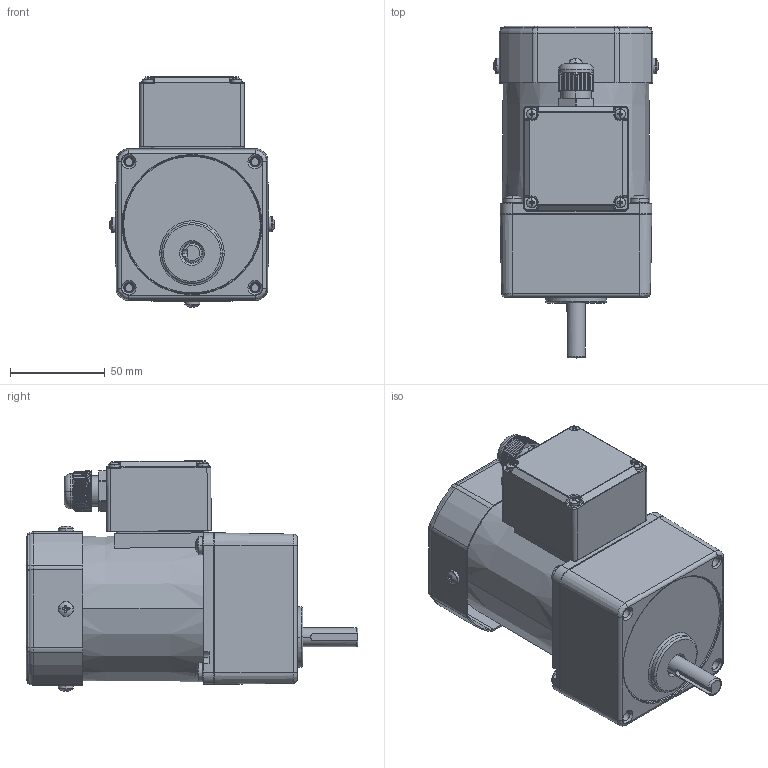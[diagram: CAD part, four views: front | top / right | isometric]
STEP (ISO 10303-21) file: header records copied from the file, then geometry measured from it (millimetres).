
FILE_DESCRIPTION (( 'STEP AP203' ), '1' );
FILE_NAME ('4IK25GN-CFT(4GN3K-200K).STEP', '2022-10-28T05:14:14', ( 'Windows User' ), ( 'P R C' ), 'SwSTEP 2.0', 'SolidWorks 2019', '' );
FILE_SCHEMA (( 'CONFIG_CONTROL_DESIGN' ));
Length unit declared in the file: millimetre
Products named in the file (16): 4IK40GN-CFT.STEP^4IK40GN-CFT_4IK25GN-CFT(4GN3K-200K)(2)_4IK25GN-CFT(4GN3K-200K); 4IK25A-CT.STEP^4IK40GN-CFT.STEP_4IK40GN-CFT_4IK25GN-CFT(4GN3K-200K)(2)_4IK25GN-CFT(4GN3K-200K); 4IK40GN-CFT^4IK25GN-CFT(4GN3K-200K)(2)_4IK25GN-CFT(4GN3K-200K); 葩璃 (6) ^_4IK25A-CT.STEP_4IK40GN-CFT.STEP_4IK40GN-CFT_4IK25GN-CFT(4GN3K-200K)(2)_4IK25GN-CFT(4GN3K-200K); 葩璃 (4) ^_4IK25A-CT.STEP_4IK40GN-CFT.STEP_4IK40GN-CFT_4IK25GN-CFT(4GN3K-200K)(2)_4IK25GN-CFT(4GN3K-200K); 4GN3K-200K; M5^4IK25GN-CFT(4GN3K-200K)(2)_4IK25GN-CFT(4GN3K-200K); 葩璃 (5) ^_4IK25A-CT.STEP_4IK40GN-CFT.STEP_4IK40GN-CFT_4IK25GN-CFT(4GN3K-200K)(2)_4IK25GN-CFT(4GN3K-200K); 4IK25GN-CFT(4GN3K-200K); 80FZ.STEP^4IK40GN-CFT.STEP_4IK40GN-CFT_4IK25GN-CFT(4GN3K-200K)(2)_4IK25GN-CFT(4GN3K-200K); ^4IK25A-CT.STEP_4IK40GN-CFT.STEP_4IK40GN-CFT_4IK25GN-CFT(4GN3K-200K)(2)_4IK25GN-CFT(4GN3K-200K); 葩璃 (3) ^_4IK25A-CT.STEP_4IK40GN-CFT.STEP_4IK40GN-CFT_4IK25GN-CFT(4GN3K-200K)(2)_4IK25GN-CFT(4GN3K-200K); M4.STEP^4IK40GN-CFT.STEP_4IK40GN-CFT_4IK25GN-CFT(4GN3K-200K)(2)_4IK25GN-CFT(4GN3K-200K); 葩璃 (2) ^_4IK25A-CT.STEP_4IK40GN-CFT.STEP_4IK40GN-CFT_4IK25GN-CFT(4GN3K-200K)(2)_4IK25GN-CFT(4GN3K-200K); 4IK25GN-CFT(4GN3K-200K)(2)^4IK25GN-CFT(4GN3K-200K); ^_4IK25A-CT.STEP_4IK40GN-CFT.STEP_4IK40GN-CFT_4IK25GN-CFT(4GN3K-200K)(2)_4IK25GN-CFT(4GN3K-200K)
Assembly tree (21 placements, depth 7):
  4IK25GN-CFT(4GN3K-200K)
    4IK25GN-CFT(4GN3K-200K)(2)^4IK25GN-CFT(4GN3K-200K)
      4IK40GN-CFT^4IK25GN-CFT(4GN3K-200K)(2)_4IK25GN-CFT(4GN3K-200K)
        4IK40GN-CFT.STEP^4IK40GN-CFT_4IK25GN-CFT(4GN3K-200K)(2)_4IK25GN-CFT(4GN3K-200K)
          4IK25A-CT.STEP^4IK40GN-CFT.STEP_4IK40GN-CFT_4IK25GN-CFT(4GN3K-200K)(2)_4IK25GN-CFT(4GN3K-200K)
            ^4IK25A-CT.STEP_4IK40GN-CFT.STEP_4IK40GN-CFT_4IK25GN-CFT(4GN3K-200K)(2)_4IK25GN-CFT(4GN3K-200K)
              ^_4IK25A-CT.STEP_4IK40GN-CFT.STEP_4IK40GN-CFT_4IK25GN-CFT(4GN3K-200K)(2)_4IK25GN-CFT(4GN3K-200K)
              葩璃 (2) ^_4IK25A-CT.STEP_4IK40GN-CFT.STEP_4IK40GN-CFT_4IK25GN-CFT(4GN3K-200K)(2)_4IK25GN-CFT(4GN3K-200K)
              葩璃 (3) ^_4IK25A-CT.STEP_4IK40GN-CFT.STEP_4IK40GN-CFT_4IK25GN-CFT(4GN3K-200K)(2)_4IK25GN-CFT(4GN3K-200K)
              葩璃 (4) ^_4IK25A-CT.STEP_4IK40GN-CFT.STEP_4IK40GN-CFT_4IK25GN-CFT(4GN3K-200K)(2)_4IK25GN-CFT(4GN3K-200K)
              葩璃 (5) ^_4IK25A-CT.STEP_4IK40GN-CFT.STEP_4IK40GN-CFT_4IK25GN-CFT(4GN3K-200K)(2)_4IK25GN-CFT(4GN3K-200K)
              葩璃 (6) ^_4IK25A-CT.STEP_4IK40GN-CFT.STEP_4IK40GN-CFT_4IK25GN-CFT(4GN3K-200K)(2)_4IK25GN-CFT(4GN3K-200K)
          80FZ.STEP^4IK40GN-CFT.STEP_4IK40GN-CFT_4IK25GN-CFT(4GN3K-200K)(2)_4IK25GN-CFT(4GN3K-200K)
          M4.STEP^4IK40GN-CFT.STEP_4IK40GN-CFT_4IK25GN-CFT(4GN3K-200K)(2)_4IK25GN-CFT(4GN3K-200K)  x4
      M5^4IK25GN-CFT(4GN3K-200K)(2)_4IK25GN-CFT(4GN3K-200K)  x4
    4GN3K-200K
Bounding box: 87.04 x 175 x 121.47 mm (x, y, z)
Volume: 526058.7 mm3; surface area: 135366.8 mm2
Topology: 16 solids, 17 shells, 2648 faces, 7011 edges, 4389 vertices
Faces by surface type: cone 1104, cylinder 800, plane 597, torus 86, sphere 32, bspline 29
Entity records: 56317 total; most frequent: CARTESIAN_POINT 12705, DIRECTION 9204, ORIENTED_EDGE 8632, EDGE_CURVE 4316, AXIS2_PLACEMENT_3D 3560, VERTEX_POINT 2739, LINE 2084, VECTOR 2084
